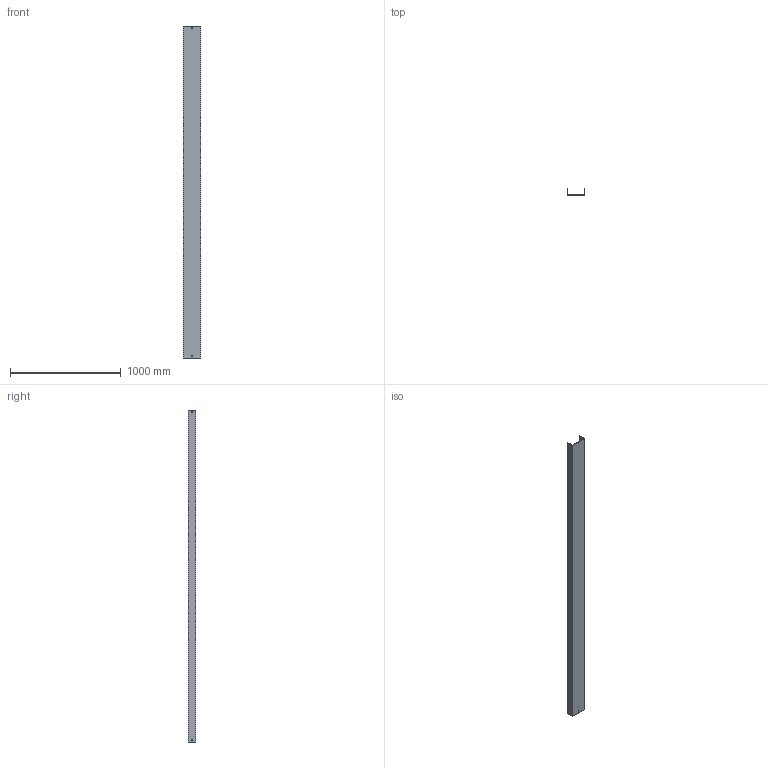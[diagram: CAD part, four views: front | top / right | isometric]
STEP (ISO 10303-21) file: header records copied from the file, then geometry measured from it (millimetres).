
FILE_DESCRIPTION (( 'STEP AP214' ), '1' );
FILE_NAME ('03B3H150.step', '2025-02-21T10:18:07', ( '' ), ( '' ), 'SwSTEP 2.0', 'SolidWorks 2023', '' );
FILE_SCHEMA (( 'AUTOMOTIVE_DESIGN' ));
Length unit declared in the file: millimetre
Products named in the file (1): 03B3H150
Bounding box: 154 x 65.5 x 3000 mm (x, y, z)
Volume: 2917610.5 mm3; surface area: 1690845 mm2
Topology: 1 solids, 1 shells, 34 faces, 96 edges, 64 vertices
Faces by surface type: plane 34
Entity records: 1127 total; most frequent: CARTESIAN_POINT 195, ORIENTED_EDGE 192, DIRECTION 166, LINE 96, EDGE_CURVE 96, VECTOR 96, VERTEX_POINT 64, EDGE_LOOP 46
